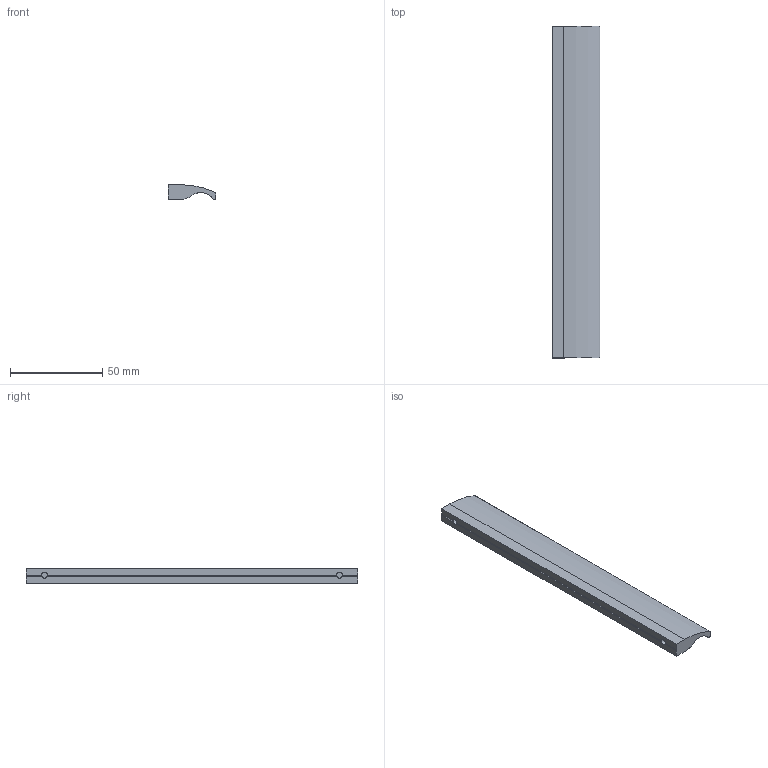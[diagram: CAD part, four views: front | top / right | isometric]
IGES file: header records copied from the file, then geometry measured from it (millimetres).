
Start section: C
Global section: file name:  8216-180.igs; native system: By Siemens PLM Incorporated; preprocessor: XPlus GENERIC/IGES 16.0.42; author: Author; organization: Title; date: 20231116.130612; units: millimetre
Bounding box: 26 x 180 x 8 mm (x, y, z)
Surface area: 12396.9 mm2 (no closed solid volume)
Topology: 0 solids, 0 shells, 23 faces, 130 edges, 130 vertices
Faces by surface type: bspline 23
